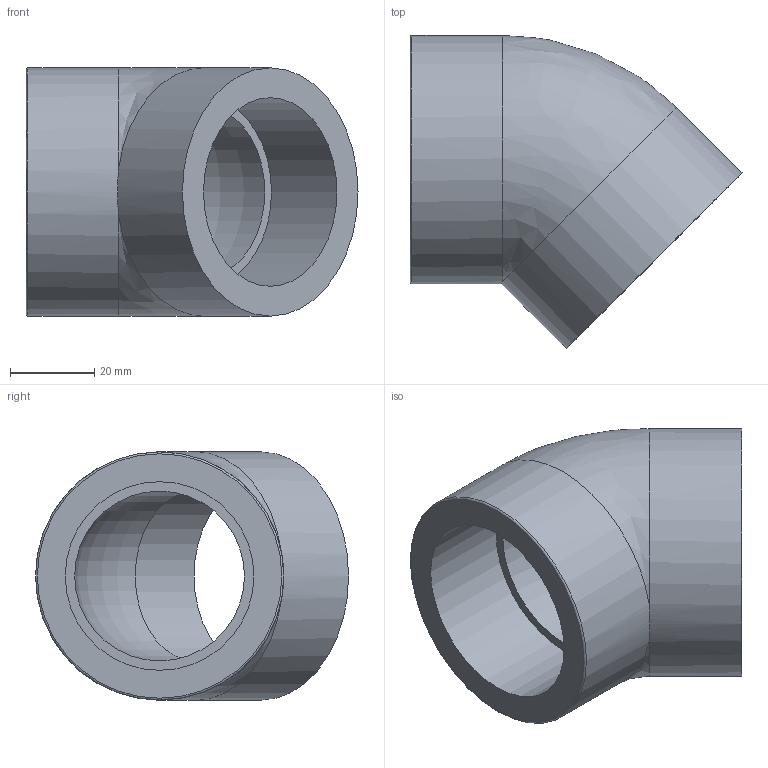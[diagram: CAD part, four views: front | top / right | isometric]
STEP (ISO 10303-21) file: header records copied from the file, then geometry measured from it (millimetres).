
FILE_DESCRIPTION(/* description */ ('PLASSON THREADED 45° ELBOW HF 1.1/2"'),/* implementation_level */ '2;1');
FILE_NAME(/* name */ 'C:\Dropbox\KIMPROJECTS-Inventor\99-16-3568-Processing\PVC Catalog 2017\26_09_18\054501\054501015.ipt.stp',/* time_stamp */ '2018-09-27T11:50:35+03:00',/* author */ ('KIM'),/* organization */ (''),/* preprocessor_version */ 'ST-DEVELOPER v15.6',/* originating_system */ 'Autodesk Inventor 2015',/* authorisation */ '');
FILE_SCHEMA (('AUTOMOTIVE_DESIGN { 1 0 10303 214 3 1 1 }'));
Length unit declared in the file: millimetre
Products named in the file (1): 054501015
Bounding box: 78.9 x 74.4 x 59 mm (x, y, z)
Volume: 84635.7 mm3; surface area: 24339.8 mm2
Topology: 1 solids, 1 shells, 11 faces, 22 edges, 13 vertices
Faces by surface type: cylinder 4, plane 4, torus 2, bspline 1
Full cylindrical faces by diameter (mm): 44.845 x2, 59 x2
Entity records: 280 total; most frequent: CARTESIAN_POINT 61, DIRECTION 46, ORIENTED_EDGE 24, AXIS2_PLACEMENT_3D 23, EDGE_LOOP 21, EDGE_CURVE 12, FACE_OUTER_BOUND 11, CIRCLE 11
